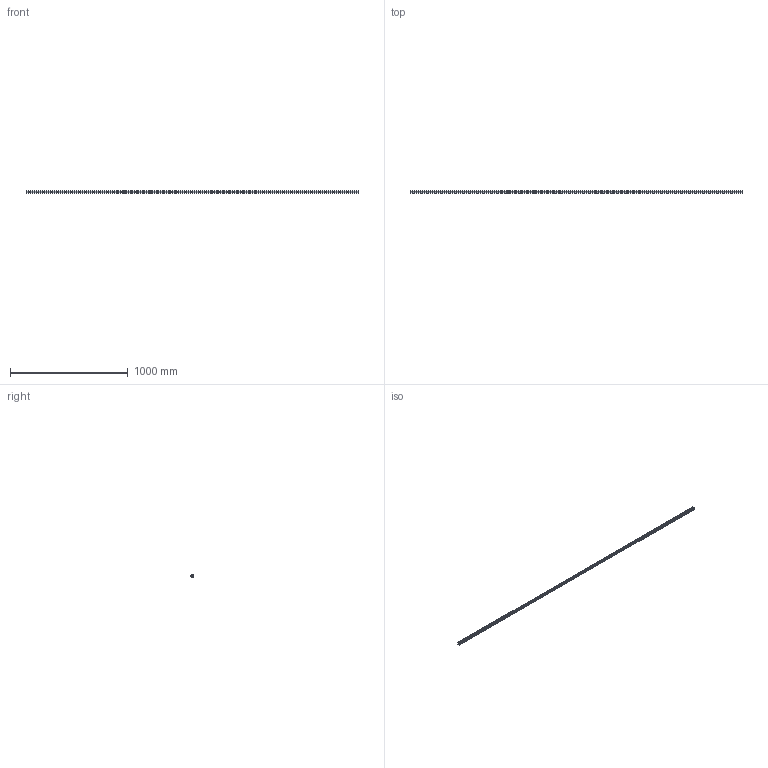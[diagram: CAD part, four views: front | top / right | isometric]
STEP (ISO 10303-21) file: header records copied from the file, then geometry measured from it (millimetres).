
FILE_DESCRIPTION (( 'STEP AP203' ), '1' );
FILE_NAME ('L1018.20R-2820.step', '2023-08-06T09:14:31', ( '' ), ( '' ), 'SwSTEP 2.0', 'SolidWorks 2019', '' );
FILE_SCHEMA (( 'CONFIG_CONTROL_DESIGN' ));
Length unit declared in the file: millimetre
Products named in the file (1): L1018.20R-2820
Bounding box: 2820 x 19.3 x 20 mm (x, y, z)
Volume: 894301.7 mm3; surface area: 238635.1 mm2
Topology: 1 solids, 1 shells, 452 faces, 1021 edges, 571 vertices
Faces by surface type: cylinder 191, cone 188, plane 73
Entity records: 11996 total; most frequent: DIRECTION 2309, CARTESIAN_POINT 1951, ORIENTED_EDGE 1854, AXIS2_PLACEMENT_3D 929, EDGE_CURVE 927, VERTEX_POINT 571, EDGE_LOOP 546, CIRCLE 476
